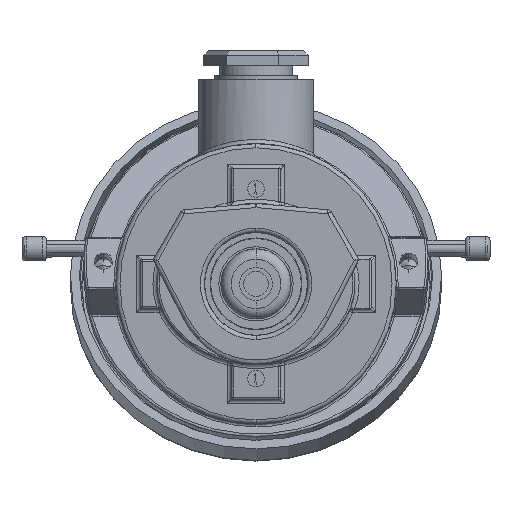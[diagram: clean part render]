
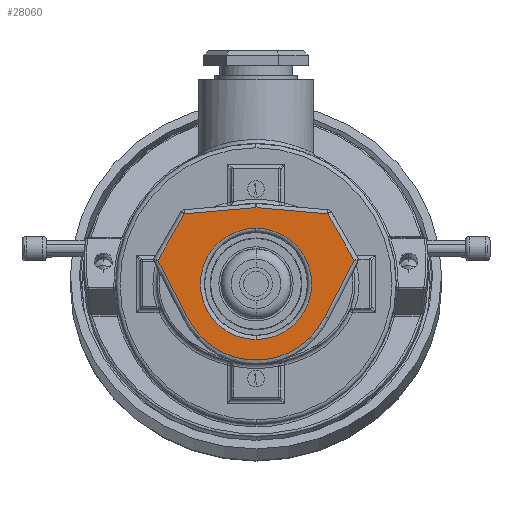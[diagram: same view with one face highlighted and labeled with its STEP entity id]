
A CAD part, front view. The second image highlights one B-rep face of the part: STEP entity #28060.
In plain terms, the highlighted planar face has unit normal (0, -1, 0).
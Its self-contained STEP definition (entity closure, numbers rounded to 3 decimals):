
#170 = DIRECTION ( 'NONE',  ( 0.458, 0., 0.889 ) ) ;
#525 = CARTESIAN_POINT ( 'NONE',  ( -16.444, 0., -8.476 ) ) ;
#884 = DIRECTION ( 'NONE',  ( 0., -1., 0. ) ) ;
#1487 = EDGE_CURVE ( 'NONE', #3304, #22362, #26813, .T. ) ;
#1679 = FACE_BOUND ( 'NONE', #26213, .T. ) ;
#1700 = CARTESIAN_POINT ( 'NONE',  ( 23.792, 0., 5.78 ) ) ;
#2317 = DIRECTION ( 'NONE',  ( -0.5, 0., 0.866 ) ) ;
#3131 = CARTESIAN_POINT ( 'NONE',  ( 0., 0., 0. ) ) ;
#3304 = VERTEX_POINT ( 'NONE', #1700 ) ;
#4514 = EDGE_CURVE ( 'NONE', #21987, #25485, #5508, .T. ) ;
#4535 = CARTESIAN_POINT ( 'NONE',  ( 0., 0., 13.5 ) ) ;
#5366 = DIRECTION ( 'NONE',  ( 0., 0., 1. ) ) ;
#5508 = LINE ( 'NONE', #8522, #17496 ) ;
#5526 = VERTEX_POINT ( 'NONE', #14856 ) ;
#6216 = DIRECTION ( 'NONE',  ( 0., 1., 0. ) ) ;
#6219 = ORIENTED_EDGE ( 'NONE', *, *, #27428, .T. ) ;
#6754 = EDGE_CURVE ( 'NONE', #22362, #21987, #17765, .T. ) ;
#7299 = DIRECTION ( 'NONE',  ( 0.458, 0., -0.889 ) ) ;
#7689 = DIRECTION ( 'NONE',  ( 0., 1., 0. ) ) ;
#8522 = CARTESIAN_POINT ( 'NONE',  ( -1.606, 0., 18.356 ) ) ;
#8779 = CIRCLE ( 'NONE', #27057, 13.5 ) ;
#9067 = VECTOR ( 'NONE', #13631, 1000. ) ;
#9134 = CARTESIAN_POINT ( 'NONE',  ( -20.347, 0., 11.747 ) ) ;
#10888 = CARTESIAN_POINT ( 'NONE',  ( 1.606, 0., 18.356 ) ) ;
#13628 = CARTESIAN_POINT ( 'NONE',  ( 16.444, 0., -8.476 ) ) ;
#13631 = DIRECTION ( 'NONE',  ( -0.5, 0., -0.866 ) ) ;
#13760 = CARTESIAN_POINT ( 'NONE',  ( 17.326, 0., 16.98 ) ) ;
#14202 = ORIENTED_EDGE ( 'NONE', *, *, #6754, .T. ) ;
#14366 = CARTESIAN_POINT ( 'NONE',  ( 0., 0., 0. ) ) ;
#14450 = ORIENTED_EDGE ( 'NONE', *, *, #25685, .T. ) ;
#14856 = CARTESIAN_POINT ( 'NONE',  ( 0., 0., -13.5 ) ) ;
#15411 = VERTEX_POINT ( 'NONE', #21137 ) ;
#16346 = AXIS2_PLACEMENT_3D ( 'NONE', #14366, #884, #16614 ) ;
#16614 = DIRECTION ( 'NONE',  ( 0., 0., 1. ) ) ;
#17496 = VECTOR ( 'NONE', #24303, 1000. ) ;
#17586 = EDGE_CURVE ( 'NONE', #25485, #15411, #27032, .T. ) ;
#17765 = LINE ( 'NONE', #10888, #23791 ) ;
#17875 = CARTESIAN_POINT ( 'NONE',  ( -17.326, 0., 16.98 ) ) ;
#18076 = CARTESIAN_POINT ( 'NONE',  ( 20.347, 0., 11.747 ) ) ;
#18891 = DIRECTION ( 'NONE',  ( 0., 1., 0. ) ) ;
#18938 = FACE_OUTER_BOUND ( 'NONE', #28018, .T. ) ;
#19722 = VERTEX_POINT ( 'NONE', #24223 ) ;
#19731 = CARTESIAN_POINT ( 'NONE',  ( 0., 0., 0. ) ) ;
#19907 = CIRCLE ( 'NONE', #16346, 18.511 ) ;
#20375 = ORIENTED_EDGE ( 'NONE', *, *, #26711, .T. ) ;
#21137 = CARTESIAN_POINT ( 'NONE',  ( -23.792, 0., 5.78 ) ) ;
#21216 = CARTESIAN_POINT ( 'NONE',  ( 0., 0., 0. ) ) ;
#21987 = VERTEX_POINT ( 'NONE', #27974 ) ;
#22026 = DIRECTION ( 'NONE',  ( 0., 0., 1. ) ) ;
#22362 = VERTEX_POINT ( 'NONE', #13760 ) ;
#22925 = LINE ( 'NONE', #13628, #28883 ) ;
#22992 = EDGE_CURVE ( 'NONE', #25983, #3304, #22925, .T. ) ;
#23482 = DIRECTION ( 'NONE',  ( 0., 0., 1. ) ) ;
#23756 = EDGE_CURVE ( 'NONE', #5526, #24238, #8779, .T. ) ;
#23791 = VECTOR ( 'NONE', #24406, 1000. ) ;
#24223 = CARTESIAN_POINT ( 'NONE',  ( -16.741, 0., -7.901 ) ) ;
#24238 = VERTEX_POINT ( 'NONE', #4535 ) ;
#24303 = DIRECTION ( 'NONE',  ( -0.996, 0., -0.087 ) ) ;
#24406 = DIRECTION ( 'NONE',  ( -0.996, 0., 0.087 ) ) ;
#24673 = AXIS2_PLACEMENT_3D ( 'NONE', #19731, #6216, #22026 ) ;
#25408 = PLANE ( 'NONE',  #25662 ) ;
#25485 = VERTEX_POINT ( 'NONE', #17875 ) ;
#25662 = AXIS2_PLACEMENT_3D ( 'NONE', #3131, #18891, #5366 ) ;
#25685 = EDGE_CURVE ( 'NONE', #24238, #5526, #26309, .T. ) ;
#25791 = ORIENTED_EDGE ( 'NONE', *, *, #23756, .T. ) ;
#25983 = VERTEX_POINT ( 'NONE', #27694 ) ;
#26131 = VECTOR ( 'NONE', #2317, 1000. ) ;
#26213 = EDGE_LOOP ( 'NONE', ( #14450, #25791 ) ) ;
#26309 = CIRCLE ( 'NONE', #24673, 13.5 ) ;
#26711 = EDGE_CURVE ( 'NONE', #19722, #25983, #19907, .T. ) ;
#26813 = LINE ( 'NONE', #18076, #26131 ) ;
#27032 = LINE ( 'NONE', #9134, #9067 ) ;
#27057 = AXIS2_PLACEMENT_3D ( 'NONE', #21216, #7689, #23482 ) ;
#27238 = ORIENTED_EDGE ( 'NONE', *, *, #17586, .T. ) ;
#27287 = ORIENTED_EDGE ( 'NONE', *, *, #4514, .T. ) ;
#27428 = EDGE_CURVE ( 'NONE', #15411, #19722, #27777, .T. ) ;
#27694 = CARTESIAN_POINT ( 'NONE',  ( 16.741, 0., -7.901 ) ) ;
#27777 = LINE ( 'NONE', #525, #28491 ) ;
#27974 = CARTESIAN_POINT ( 'NONE',  ( 0., 0., 18.496 ) ) ;
#28018 = EDGE_LOOP ( 'NONE', ( #28885, #14202, #27287, #27238, #6219, #20375, #28673 ) ) ;
#28060 = ADVANCED_FACE ( 'NONE', ( #18938, #1679 ), #25408, .F. ) ;
#28491 = VECTOR ( 'NONE', #7299, 1000. ) ;
#28673 = ORIENTED_EDGE ( 'NONE', *, *, #22992, .T. ) ;
#28883 = VECTOR ( 'NONE', #170, 1000. ) ;
#28885 = ORIENTED_EDGE ( 'NONE', *, *, #1487, .T. ) ;
